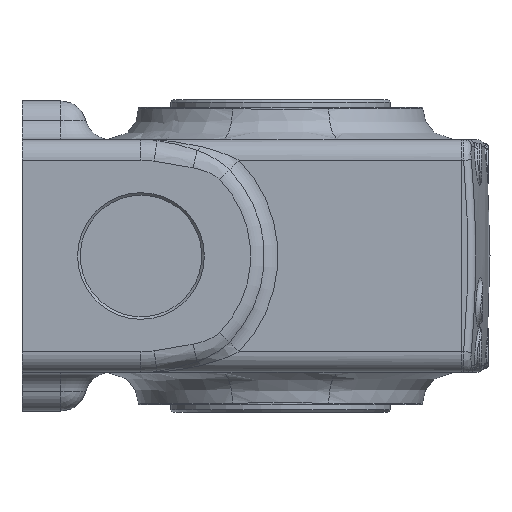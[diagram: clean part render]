
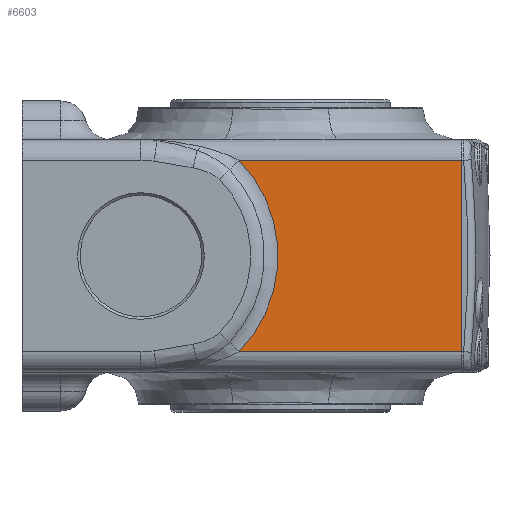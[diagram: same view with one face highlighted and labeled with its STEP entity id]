
A CAD part, left-side view. The second image highlights one B-rep face of the part: STEP entity #6603.
In plain terms, the highlighted planar face has unit normal (-1, 0, 0).
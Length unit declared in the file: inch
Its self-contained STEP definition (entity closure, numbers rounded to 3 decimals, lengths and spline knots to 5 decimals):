
#236=PLANE('',#7207);
#361=LINE('',#13484,#538);
#367=LINE('',#14630,#544);
#368=LINE('',#14631,#545);
#538=VECTOR('',#8288,3.38711);
#544=VECTOR('',#8372,3.38711);
#545=VECTOR('',#8373,2.91339);
#1271=FACE_OUTER_BOUND('',#1848,.T.);
#1848=EDGE_LOOP('',(#4695,#4696,#4697,#4698));
#2430=CIRCLE('',#7204,2.08661);
#2923=VERTEX_POINT('',#13477);
#2924=VERTEX_POINT('',#13483);
#2951=VERTEX_POINT('',#14541);
#2954=VERTEX_POINT('',#14629);
#3556=EDGE_CURVE('',#2923,#2924,#361,.T.);
#3615=EDGE_CURVE('',#2951,#2923,#2430,.T.);
#3621=EDGE_CURVE('',#2954,#2951,#367,.T.);
#3622=EDGE_CURVE('',#2924,#2954,#368,.T.);
#4695=ORIENTED_EDGE('',*,*,#3615,.F.);
#4696=ORIENTED_EDGE('',*,*,#3621,.F.);
#4697=ORIENTED_EDGE('',*,*,#3622,.F.);
#4698=ORIENTED_EDGE('',*,*,#3556,.F.);
#6603=ADVANCED_FACE('',(#1271),#236,.F.);
#7204=AXIS2_PLACEMENT_3D('',#14543,#8363,#8364);
#7207=AXIS2_PLACEMENT_3D('',#14628,#8370,#8371);
#8288=DIRECTION('',(0.,-1.,0.));
#8363=DIRECTION('center_axis',(-1.,0.,0.));
#8364=DIRECTION('ref_axis',(0.,-1.,0.));
#8370=DIRECTION('center_axis',(1.,0.,0.));
#8371=DIRECTION('ref_axis',(0.,0.,-1.));
#8372=DIRECTION('',(0.,1.,0.));
#8373=DIRECTION('',(0.,0.,-1.));
#13477=CARTESIAN_POINT('',(-3.95727,-0.88176,2.1338));
#13483=CARTESIAN_POINT('',(-3.95727,-4.26887,2.1338));
#13484=CARTESIAN_POINT('',(-3.95727,-2.59565,2.1338));
#14541=CARTESIAN_POINT('',(-3.95727,-0.88176,-0.77959));
#14543=CARTESIAN_POINT('Origin',(-3.95727,0.61223,0.6771));
#14628=CARTESIAN_POINT('Origin',(-3.95727,-4.26887,2.44876));
#14629=CARTESIAN_POINT('',(-3.95727,-4.26887,-0.77959));
#14630=CARTESIAN_POINT('',(-3.95727,-2.59565,-0.77959));
#14631=CARTESIAN_POINT('',(-3.95727,-4.26887,1.56293));
